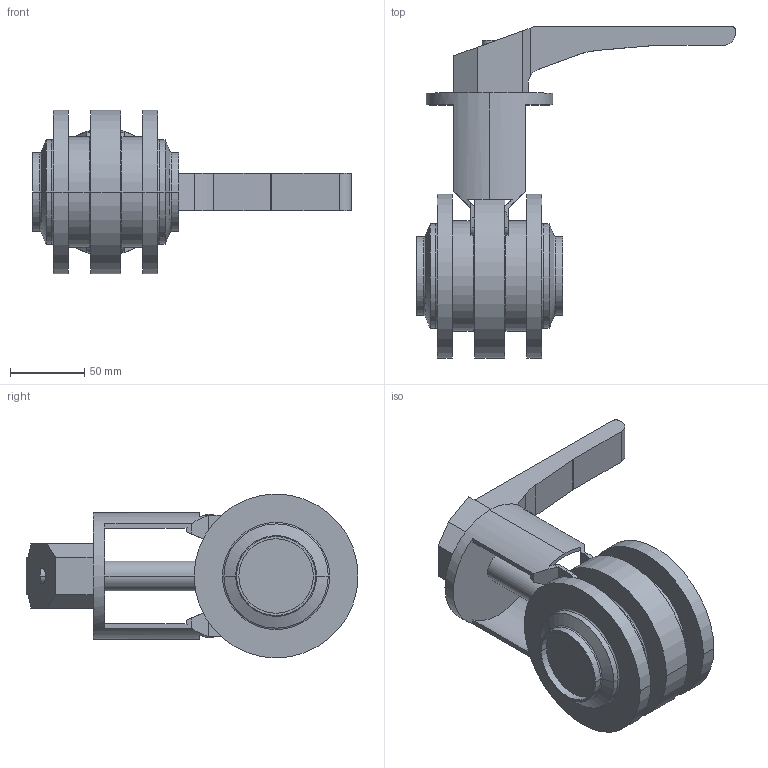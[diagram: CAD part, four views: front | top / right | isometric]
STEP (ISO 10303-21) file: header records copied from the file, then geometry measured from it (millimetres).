
FILE_DESCRIPTION(('Creo Elements/Direct Modeling STEP Export'),'2;1');
FILE_NAME('SVS1F-50-HL-12S.stp','2015-02-10T16:45:13',(''),(''),'Creo Elements/Direct Modeling STEP processor for AP214 (Solid Model)','Creo Elements/Direct Modeling 17.0D 15-Jul-2011 (C) Parametric Technology GmbH','');
FILE_SCHEMA(('AUTOMOTIVE_DESIGN { 1 0 10303 214 1 1 1 1 }'));
Length unit declared in the file: millimetre
Products named in the file (5): SVS1F-50-H-12S; Handhebel-SV-40-100.1; SV_Laterne_HL_40_50; SVS1F-50-HL-12S
Assembly tree (4 placements, depth 3):
  SVS1F-50-HL-12S
    SV_Laterne_HL_40_50
      SV_Laterne_HL_40_50
      Handhebel-SV-40-100.1
    SVS1F-50-H-12S
Bounding box: 214 x 222.88 x 110 mm (x, y, z)
Volume: 785314.4 mm3; surface area: 122175.6 mm2
Topology: 3 solids, 3 shells, 157 faces, 399 edges, 258 vertices
Faces by surface type: plane 92, cylinder 49, torus 12, cone 4
Entity records: 5004 total; most frequent: CARTESIAN_POINT 1161, ORIENTED_EDGE 798, DIRECTION 763, EDGE_CURVE 399, AXIS2_PLACEMENT_3D 265, VERTEX_POINT 258, VECTOR 233, LINE 233
